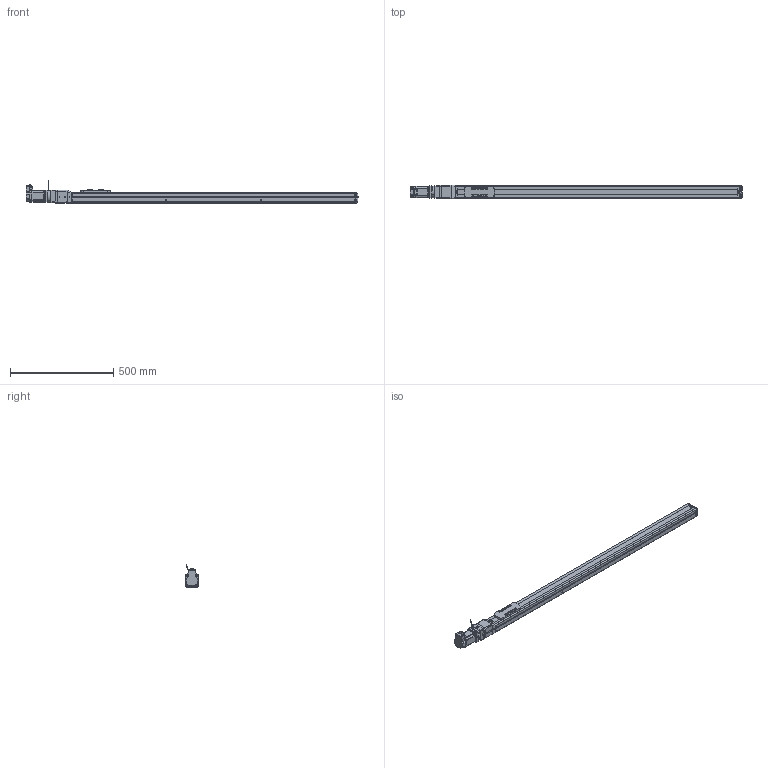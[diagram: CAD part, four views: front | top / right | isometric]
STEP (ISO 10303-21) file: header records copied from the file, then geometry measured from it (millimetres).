
FILE_DESCRIPTION(('FreeCAD Model'),'2;1');
FILE_NAME('Open CASCADE Shape Model','2023-08-03T17:19:24',('Author'),( ''),'Open CASCADE STEP processor 7.5','FreeCAD','Unknown');
FILE_SCHEMA(('AUTOMOTIVE_DESIGN { 1 0 10303 214 1 1 1 1 }'));
Length unit declared in the file: millimetre
Products named in the file (21): RMJ1211_BRK; Shapes; Shapes001; Shapes002; Shapes003; Shapes004; Shapes005; Shapes006; Shapes007; Shapes008; Shapes009; Shapes010; Shapes011; Shapes012; Body; BXW-03-10H-8_STEP; Body001; KSF6-20-1150-0-A0(0); KSF6---(Cover); KSF6-10-0050---(slider); KSF6-20-01150-A0 (01150A0No0)---(body)
Assembly tree (20 placements, depth 3):
  RMJ1211_BRK
    Shapes
    Shapes001
    Shapes002
    Shapes003
    Shapes004
    Shapes005
    Shapes006
    Shapes007
    Shapes008
    Shapes009
    Shapes010
    Shapes011
    Shapes012
    Body
    BXW-03-10H-8_STEP
    Body001
    KSF6-20-1150-0-A0(0)
      KSF6---(Cover)
      KSF6-10-0050---(slider)
      KSF6-20-01150-A0 (01150A0No0)---(body)
Bounding box: 1610.47 x 66.4 x 107.78 mm (x, y, z)
Volume: 4987577.3 mm3; surface area: 532441.3 mm2
Topology: 19 solids, 19 shells, 1914 faces, 5073 edges, 3328 vertices
Faces by surface type: plane 1263, cylinder 501, cone 91, bspline 28, torus 27, revolution 4
Full cylindrical faces by diameter (mm): 2.113 x8, 2.6 x4, 3 x5, 3.242 x5, 4.134 x4, 4.2 x7, 4.3 x1, 4.5 x2, 5 x1, 5.5 x20, 6.5 x4, 7.5 x4, 9 x1, 9.5 x14, 12 x1, 15.5 x1, 17 x1, 38.1 x1, 38.2 x1, 44 x1, 50 x2, 56.2 x1
Entity records: 136205 total; most frequent: CARTESIAN_POINT 31632, DIRECTION 19288, LINE 12475, VECTOR 12475, ORIENTED_EDGE 10098, PCURVE 10098, DEFINITIONAL_REPRESENTATION 10098, EDGE_CURVE 5049
